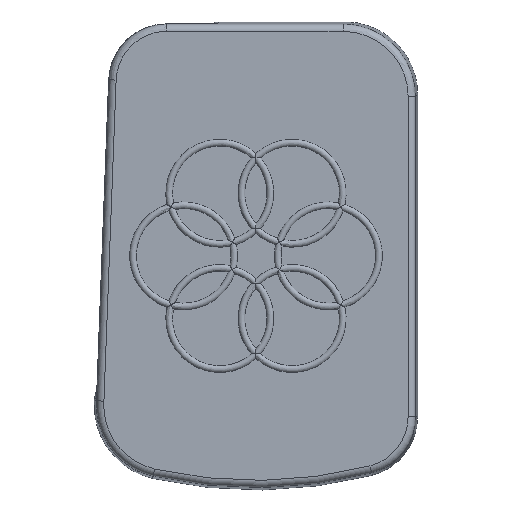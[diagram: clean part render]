
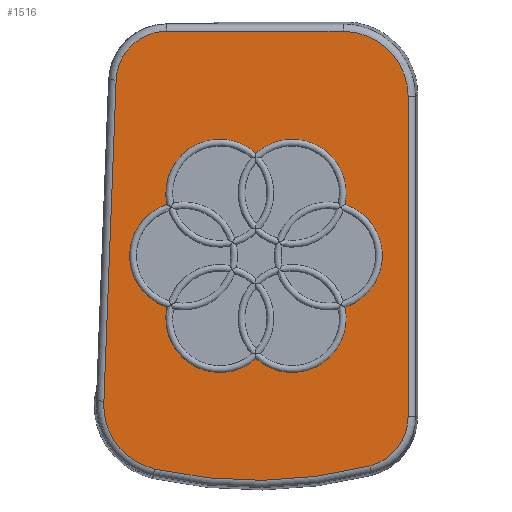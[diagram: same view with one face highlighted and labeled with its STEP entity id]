
A CAD part, top view. The second image highlights one B-rep face of the part: STEP entity #1516.
In plain terms, the highlighted planar face has unit normal (0, 0, 1).
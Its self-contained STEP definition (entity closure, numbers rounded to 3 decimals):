
#37=FACE_BOUND('',#380,.T.);
#128=CIRCLE('',#1621,7.458);
#150=CIRCLE('',#1661,9.034);
#152=CIRCLE('',#1664,63.034);
#155=CIRCLE('',#1668,7.034);
#161=CIRCLE('',#1686,7.458);
#162=CIRCLE('',#1687,7.458);
#163=CIRCLE('',#1688,7.458);
#164=CIRCLE('',#1689,7.458);
#165=CIRCLE('',#1690,7.458);
#227=PLANE('',#1685);
#283=FACE_OUTER_BOUND('',#379,.T.);
#379=EDGE_LOOP('',(#1192,#1193,#1194,#1195,#1196,#1197,#1198,#1199));
#380=EDGE_LOOP('',(#1200,#1201,#1202,#1203,#1204,#1205));
#490=LINE('',#2680,#566);
#491=LINE('',#2720,#567);
#493=LINE('',#2758,#569);
#566=VECTOR('',#1998,10.);
#567=VECTOR('',#2009,10.);
#569=VECTOR('',#2019,10.);
#605=ELLIPSE('',#1673,9.011,9.);
#607=ELLIPSE('',#1678,7.008,7.);
#648=VERTEX_POINT('',#2460);
#649=VERTEX_POINT('',#2461);
#693=VERTEX_POINT('',#2647);
#694=VERTEX_POINT('',#2649);
#696=VERTEX_POINT('',#2665);
#698=VERTEX_POINT('',#2671);
#700=VERTEX_POINT('',#2678);
#702=VERTEX_POINT('',#2712);
#704=VERTEX_POINT('',#2718);
#706=VERTEX_POINT('',#2753);
#707=VERTEX_POINT('',#2772);
#708=VERTEX_POINT('',#2773);
#709=VERTEX_POINT('',#2775);
#710=VERTEX_POINT('',#2778);
#809=EDGE_CURVE('',#648,#649,#128,.T.);
#865=EDGE_CURVE('',#693,#694,#150,.T.);
#868=EDGE_CURVE('',#696,#693,#152,.T.);
#871=EDGE_CURVE('',#698,#696,#155,.T.);
#875=EDGE_CURVE('',#700,#698,#490,.T.);
#877=EDGE_CURVE('',#702,#700,#605,.T.);
#880=EDGE_CURVE('',#704,#702,#491,.T.);
#883=EDGE_CURVE('',#706,#704,#607,.T.);
#885=EDGE_CURVE('',#694,#706,#493,.T.);
#892=EDGE_CURVE('',#707,#708,#161,.T.);
#893=EDGE_CURVE('',#708,#709,#162,.T.);
#894=EDGE_CURVE('',#709,#648,#163,.T.);
#895=EDGE_CURVE('',#649,#710,#164,.T.);
#896=EDGE_CURVE('',#710,#707,#165,.T.);
#1192=ORIENTED_EDGE('',*,*,#875,.F.);
#1193=ORIENTED_EDGE('',*,*,#877,.F.);
#1194=ORIENTED_EDGE('',*,*,#880,.F.);
#1195=ORIENTED_EDGE('',*,*,#883,.F.);
#1196=ORIENTED_EDGE('',*,*,#885,.F.);
#1197=ORIENTED_EDGE('',*,*,#865,.F.);
#1198=ORIENTED_EDGE('',*,*,#868,.F.);
#1199=ORIENTED_EDGE('',*,*,#871,.F.);
#1200=ORIENTED_EDGE('',*,*,#892,.T.);
#1201=ORIENTED_EDGE('',*,*,#893,.T.);
#1202=ORIENTED_EDGE('',*,*,#894,.T.);
#1203=ORIENTED_EDGE('',*,*,#809,.T.);
#1204=ORIENTED_EDGE('',*,*,#895,.T.);
#1205=ORIENTED_EDGE('',*,*,#896,.T.);
#1516=ADVANCED_FACE('',(#283,#37),#227,.T.);
#1621=AXIS2_PLACEMENT_3D('',#2462,#1876,#1877);
#1661=AXIS2_PLACEMENT_3D('',#2650,#1975,#1976);
#1664=AXIS2_PLACEMENT_3D('',#2667,#1981,#1982);
#1668=AXIS2_PLACEMENT_3D('',#2673,#1989,#1990);
#1673=AXIS2_PLACEMENT_3D('',#2714,#2001,#2002);
#1678=AXIS2_PLACEMENT_3D('',#2755,#2013,#2014);
#1685=AXIS2_PLACEMENT_3D('',#2771,#2033,#2034);
#1686=AXIS2_PLACEMENT_3D('',#2774,#2035,#2036);
#1687=AXIS2_PLACEMENT_3D('',#2776,#2037,#2038);
#1688=AXIS2_PLACEMENT_3D('',#2777,#2039,#2040);
#1689=AXIS2_PLACEMENT_3D('',#2779,#2041,#2042);
#1690=AXIS2_PLACEMENT_3D('',#2780,#2043,#2044);
#1876=DIRECTION('center_axis',(0.,0.,-1.));
#1877=DIRECTION('ref_axis',(1.,0.,0.));
#1975=DIRECTION('center_axis',(0.,0.,-1.));
#1976=DIRECTION('ref_axis',(-0.801,-0.599,0.));
#1981=DIRECTION('center_axis',(0.,0.,-1.));
#1982=DIRECTION('ref_axis',(0.014,-1.,0.));
#1989=DIRECTION('center_axis',(0.,0.,-1.));
#1990=DIRECTION('ref_axis',(0.791,-0.612,0.));
#1998=DIRECTION('',(0.,-1.,0.));
#2001=DIRECTION('center_axis',(0.,0.,-1.));
#2002=DIRECTION('ref_axis',(0.707,0.707,0.));
#2009=DIRECTION('',(1.,0.,0.));
#2013=DIRECTION('center_axis',(0.,0.,-1.));
#2014=DIRECTION('ref_axis',(-0.694,0.72,0.));
#2019=DIRECTION('',(0.038,0.999,0.));
#2033=DIRECTION('center_axis',(0.,0.,1.));
#2034=DIRECTION('ref_axis',(1.,0.,0.));
#2035=DIRECTION('center_axis',(0.,0.,-1.));
#2036=DIRECTION('ref_axis',(1.,0.,0.));
#2037=DIRECTION('center_axis',(0.,0.,-1.));
#2038=DIRECTION('ref_axis',(1.,0.,0.));
#2039=DIRECTION('center_axis',(0.,0.,-1.));
#2040=DIRECTION('ref_axis',(1.,0.,0.));
#2041=DIRECTION('center_axis',(0.,0.,-1.));
#2042=DIRECTION('ref_axis',(1.,0.,0.));
#2043=DIRECTION('center_axis',(0.,0.,-1.));
#2044=DIRECTION('ref_axis',(1.,0.,0.));
#2460=CARTESIAN_POINT('',(-12.293,-7.097,40.));
#2461=CARTESIAN_POINT('',(-12.293,7.097,40.));
#2462=CARTESIAN_POINT('Origin',(-10.,0.,40.));
#2647=CARTESIAN_POINT('',(-14.008,-29.458,40.));
#2649=CARTESIAN_POINT('',(-21.016,-20.075,40.));
#2650=CARTESIAN_POINT('Origin',(-12.,-20.65,40.));
#2665=CARTESIAN_POINT('',(15.759,-29.033,40.));
#2667=CARTESIAN_POINT('Origin',(0.,32.,40.));
#2671=CARTESIAN_POINT('',(21.034,-22.222,40.));
#2673=CARTESIAN_POINT('Origin',(14.,-22.222,40.));
#2678=CARTESIAN_POINT('',(21.034,22.04,40.));
#2680=CARTESIAN_POINT('',(21.034,16.,40.));
#2712=CARTESIAN_POINT('',(12.04,31.034,40.));
#2714=CARTESIAN_POINT('Origin',(12.029,22.029,40.));
#2718=CARTESIAN_POINT('',(-12.336,31.034,40.));
#2720=CARTESIAN_POINT('',(-10.,31.034,40.));
#2753=CARTESIAN_POINT('',(-19.327,24.305,40.));
#2755=CARTESIAN_POINT('Origin',(-12.328,24.03,40.));
#2758=CARTESIAN_POINT('',(-20.619,-9.646,40.));
#2771=CARTESIAN_POINT('Origin',(0.,0.,
40.));
#2772=CARTESIAN_POINT('',(12.293,7.097,40.));
#2773=CARTESIAN_POINT('',(12.293,-7.097,40.));
#2774=CARTESIAN_POINT('Origin',(10.,0.,40.));
#2775=CARTESIAN_POINT('',(0.,-14.194,40.));
#2776=CARTESIAN_POINT('Origin',(5.,-8.66,40.));
#2777=CARTESIAN_POINT('Origin',(-5.,-8.66,40.));
#2778=CARTESIAN_POINT('',(0.,14.194,40.));
#2779=CARTESIAN_POINT('Origin',(-5.,8.66,40.));
#2780=CARTESIAN_POINT('Origin',(5.,8.66,40.));
